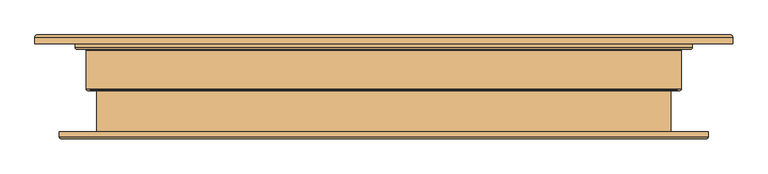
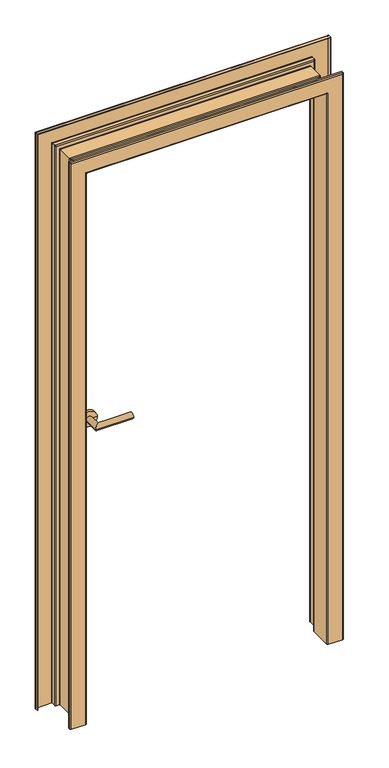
"""IFC4 building model written with IfcOpenShell, lengths in millimetres: door geometry."""

from ifc_helpers import new_model, si_unit, frame, origin, place, context, project, spatial, polyline, circle_curve, ellipse_curve, source, transform, mapped, element, save
from ifc_brep_helpers import plane_surface, cylinder_surface, revolved_surface, advanced_brep


def door_8842c076(model_context):
    return source(origin(), model_context, "Body", "AdvancedBrep", [
        advanced_brep(
        [(-500.8, 138.0, 0.0), (-447.2, 138.0, 0.0), (-444.0, 134.8, 0.0), (-444.0, 120.2, 0.0), (-442.8, 119.0, 0.0), (-431.2, 119.0, 0.0), (-428.0, 115.8, 0.0), (-428.0, 60.5435371, 0.0), (-427.230303, 59.5704182, 0.0), (-421.4901646, 59.1837299, 0.0), (-418.7138764, 60.5145653, 0.0), (-418.4, 61.2839869, 0.0), (-418.4, 67.990098, 0.0), (-417.5333333, 70.1996732, 0.0), (-413.8666667, 70.1996732, 0.0), (-413.0, 67.990098, 0.0), (-413.0, -8.8, 0.0), (-416.2, -12.0, 0.0), (-465.8, -12.0, 0.0), (-469.0, -8.8, 0.0), (-469.0, -2.0, 0.0), (-467.0, -2.0, 0.0), (-467.0, -8.8, 0.0), (-465.8, -10.0, 0.0), (-416.2, -10.0, 0.0), (-415.0, -8.8, 0.0), (-415.0, 67.990098, 0.0), (-415.3333333, 68.8399346, 0.0), (-416.0666667, 68.8399346, 0.0), (-416.4, 67.990098, 0.0), (-416.4, 61.2435371, 0.0), (-417.2315687, 59.170398, 0.0), (-421.2947548, 57.1932991, 0.0), (-427.6909091, 57.6241802, 0.0), (-430.0, 60.5435371, 0.0), (-430.0, 115.8, 0.0), (-431.2, 117.0, 0.0), (-442.8, 117.0, 0.0), (-446.0, 120.2, 0.0), (-446.0, 134.8, 0.0), (-447.2, 136.0, 0.0), (-500.8, 136.0, 0.0), (-502.0, 134.8, 0.0), (-502.0, 125.0, 0.0), (-504.0, 125.0, 0.0), (-504.0, 134.8, 0.0), (-500.8, 138.0, 2087.8), (500.8, 138.0, 2087.8), (500.8, 138.0, 0.0), (447.2, 138.0, 0.0), (447.2, 138.0, 2034.2), (-447.2, 138.0, 2034.2), (-444.0, 134.8, 2031.0), (-444.0, 120.2, 2031.0), (-442.8, 119.0, 2029.8), (442.8, 119.0, 2029.8), (442.8, 119.0, 0.0), (431.2, 119.0, 0.0), (431.2, 119.0, 2018.2), (-431.2, 119.0, 2018.2), (-428.0, 115.8, 2015.0), (-428.0, 60.5435371, 2015.0), (-427.230303, 59.5704182, 2014.230303), (-421.4901646, 59.1837299, 2008.4901646), (-418.7138764, 60.5145653, 2005.7138764), (-418.4, 61.2839869, 2005.4), (-418.4, 67.990098, 2005.4), (-417.5333333, 70.1996732, 2004.5333333), (-413.8666667, 70.1996732, 2000.8666667), (-413.0, 67.990098, 2000.0), (-413.0, -8.8, 2000.0), (-416.2, -12.0, 2003.2), (416.2, -12.0, 2003.2), (416.2, -12.0, 0.0), (465.8, -12.0, 0.0), (465.8, -12.0, 2052.8), (-465.8, -12.0, 2052.8), (-469.0, -8.8, 2056.0), (-469.0, -2.0, 2056.0), (469.0, -2.0, 2056.0), (469.0, -2.0, 0.0), (467.0, -2.0, 0.0), (467.0, -2.0, 2054.0), (-467.0, -2.0, 2054.0), (-467.0, -8.8, 2054.0), (-465.8, -10.0, 2052.8), (465.8, -10.0, 2052.8), (465.8, -10.0, 0.0), (416.2, -10.0, 0.0), (416.2, -10.0, 2003.2), (-416.2, -10.0, 2003.2), (-415.0, -8.8, 2002.0), (-415.0, 67.990098, 2002.0), (-415.3333333, 68.8399346, 2002.3333333), (-416.0666667, 68.8399346, 2003.0666667), (-416.4, 67.990098, 2003.4), (-416.4, 61.2435371, 2003.4), (-417.2315687, 59.170398, 2004.2315687), (-421.2947548, 57.1932991, 2008.2947548), (-427.6909091, 57.6241802, 2014.6909091), (-430.0, 60.5435371, 2017.0), (-430.0, 115.8, 2017.0), (-431.2, 117.0, 2018.2), (431.2, 117.0, 2018.2), (431.2, 117.0, 0.0), (442.8, 117.0, 0.0), (442.8, 117.0, 2029.8), (-442.8, 117.0, 2029.8), (-446.0, 120.2, 2033.0), (-446.0, 134.8, 2033.0), (-447.2, 136.0, 2034.2), (447.2, 136.0, 2034.2), (447.2, 136.0, 0.0), (500.8, 136.0, 0.0), (500.8, 136.0, 2087.8), (-500.8, 136.0, 2087.8), (-502.0, 134.8, 2089.0), (-502.0, 125.0, 2089.0), (502.0, 125.0, 2089.0), (502.0, 125.0, 0.0), (504.0, 125.0, 0.0), (504.0, 125.0, 2091.0), (-504.0, 125.0, 2091.0), (-504.0, 134.8, 2091.0), (502.0, 134.8, 2089.0), (502.0, 134.8, 0.0), (504.0, 134.8, 0.0), (446.0, 134.8, 0.0), (446.0, 120.2, 0.0), (430.0, 115.8, 0.0), (430.0, 60.5435371, 0.0), (427.6909091, 57.6241802, 0.0), (421.2947548, 57.1932991, 0.0), (417.2315687, 59.170398, 0.0), (416.4, 61.2435371, 0.0), (416.4, 67.990098, 0.0), (416.0666667, 68.8399346, 0.0), (415.3333333, 68.8399346, 0.0), (415.0, 67.990098, 0.0), (415.0, -8.8, 0.0), (467.0, -8.8, 0.0), (469.0, -8.8, 0.0), (413.0, -8.8, 0.0), (413.0, 67.990098, 0.0), (413.8666667, 70.1996732, 0.0), (417.5333333, 70.1996732, 0.0), (418.4, 67.990098, 0.0), (418.4, 61.2839869, 0.0), (418.7138764, 60.5145653, 0.0), (421.4901646, 59.1837299, 0.0), (427.230303, 59.5704182, 0.0), (428.0, 60.5435371, 0.0), (428.0, 115.8, 0.0), (444.0, 120.2, 0.0), (444.0, 134.8, 0.0), (504.0, 134.8, 2091.0), (446.0, 134.8, 2033.0), (430.0, 115.8, 2017.0), (446.0, 120.2, 2033.0), (467.0, -8.8, 2054.0), (415.0, -8.8, 2002.0), (469.0, -8.8, 2056.0), (413.0, -8.8, 2000.0), (444.0, 120.2, 2031.0), (428.0, 115.8, 2015.0), (444.0, 134.8, 2031.0), (430.0, 60.5435371, 2017.0), (427.6909091, 57.6241802, 2014.6909091), (421.2947548, 57.1932991, 2008.2947548), (417.2315687, 59.170398, 2004.2315687), (416.4, 61.2435371, 2003.4), (416.4, 67.990098, 2003.4), (416.0666667, 68.8399346, 2003.0666667), (415.3333333, 68.8399346, 2002.3333333), (415.0, 67.990098, 2002.0), (413.0, 67.990098, 2000.0), (413.8666667, 70.1996732, 2000.8666667), (417.5333333, 70.1996732, 2004.5333333), (418.4, 67.990098, 2005.4), (418.4, 61.2839869, 2005.4), (418.7138764, 60.5145653, 2005.7138764), (421.4901646, 59.1837299, 2008.4901646), (427.230303, 59.5704182, 2014.230303), (428.0, 60.5435371, 2015.0)],
        [
            (0, 1),
            (1, 2, circle_curve(frame((-447.2, 134.8, 0.0), z_axis=(0.0, 0.0, -1.0), x_axis=(1.0, 0.0, 0.0)), 3.2)),
            (2, 3),
            (3, 4, circle_curve(frame((-442.8, 120.2, 0.0), z_axis=(0.0, 0.0, 1.0), x_axis=(1.0, 0.0, 0.0)), 1.2)),
            (4, 5),
            (5, 6, circle_curve(frame((-431.2, 115.8, 0.0), z_axis=(0.0, 0.0, -1.0), x_axis=(1.0, 0.0, 0.0)), 3.2)),
            (6, 7),
            (7, 8, circle_curve(frame((-427.0, 60.5435371, 0.0), z_axis=(0.0, 0.0, 1.0), x_axis=(1.0, 0.0, 0.0)), 1.0)),
            (8, 9, circle_curve(frame((-423.2, 76.6, 0.0), z_axis=(0.0, 0.0, 1.0), x_axis=(-1.0, 0.0, 0.0)), 17.5)),
            (9, 10, circle_curve(frame((-421.9298365, 63.6621994, 0.0), z_axis=(0.0, 0.0, 1.0), x_axis=(-1.0, 0.0, 0.0)), 4.5)),
            (10, 11, circle_curve(frame((-419.5, 61.2839869, 0.0), z_axis=(0.0, 0.0, 1.0), x_axis=(-1.0, 0.0, 0.0)), 1.1)),
            (11, 12),
            (12, 13, circle_curve(frame((-415.15, 67.990098, 0.0), z_axis=(0.0, 0.0, -1.0), x_axis=(1.0, 0.0, 0.0)), 3.25)),
            (13, 14, circle_curve(frame((-415.7, 68.5, 0.0), z_axis=(0.0, 0.0, -1.0), x_axis=(1.0, 0.0, 0.0)), 2.5)),
            (14, 15, circle_curve(frame((-416.25, 67.990098, 0.0), z_axis=(0.0, 0.0, -1.0), x_axis=(1.0, 0.0, 0.0)), 3.25)),
            (15, 16),
            (16, 17, circle_curve(frame((-416.2, -8.8, 0.0), z_axis=(0.0, 0.0, -1.0), x_axis=(1.0, 0.0, 0.0)), 3.2)),
            (17, 18),
            (18, 19, circle_curve(frame((-465.8, -8.8, 0.0), z_axis=(0.0, 0.0, -1.0), x_axis=(1.0, 0.0, 0.0)), 3.2)),
            (19, 20),
            (20, 21),
            (21, 22),
            (22, 23, circle_curve(frame((-465.8, -8.8, 0.0), z_axis=(0.0, 0.0, 1.0), x_axis=(1.0, 0.0, 0.0)), 1.2)),
            (23, 24),
            (24, 25, circle_curve(frame((-416.2, -8.8, 0.0), z_axis=(0.0, 0.0, 1.0), x_axis=(1.0, 0.0, 0.0)), 1.2)),
            (25, 26),
            (26, 27, circle_curve(frame((-416.25, 67.990098, 0.0), z_axis=(0.0, 0.0, 1.0), x_axis=(1.0, 0.0, 0.0)), 1.25)),
            (27, 28, circle_curve(frame((-415.7, 68.5, 0.0), z_axis=(0.0, 0.0, 1.0), x_axis=(1.0, 0.0, 0.0)), 0.5)),
            (28, 29, circle_curve(frame((-415.15, 67.990098, 0.0), z_axis=(0.0, 0.0, 1.0), x_axis=(1.0, 0.0, 0.0)), 1.25)),
            (29, 30),
            (30, 31, circle_curve(frame((-419.4, 61.2435371, 0.0), z_axis=(0.0, 0.0, -1.0), x_axis=(1.0, 0.0, 0.0)), 3.0)),
            (31, 32, circle_curve(frame((-421.9298365, 63.6621994, 0.0), z_axis=(0.0, 0.0, -1.0), x_axis=(1.0, 0.0, 0.0)), 6.5)),
            (32, 33, circle_curve(frame((-423.2, 76.6, 0.0), z_axis=(0.0, 0.0, -1.0), x_axis=(1.0, 0.0, 0.0)), 19.5)),
            (33, 34, circle_curve(frame((-427.0, 60.5435371, 0.0), z_axis=(0.0, 0.0, -1.0), x_axis=(1.0, 0.0, 0.0)), 3.0)),
            (34, 35),
            (35, 36, circle_curve(frame((-431.2, 115.8, 0.0), z_axis=(0.0, 0.0, 1.0), x_axis=(1.0, 0.0, 0.0)), 1.2)),
            (36, 37),
            (37, 38, circle_curve(frame((-442.8, 120.2, 0.0), z_axis=(0.0, 0.0, -1.0), x_axis=(1.0, 0.0, 0.0)), 3.2)),
            (38, 39),
            (39, 40, circle_curve(frame((-447.2, 134.8, 0.0), z_axis=(0.0, 0.0, 1.0), x_axis=(1.0, 0.0, 0.0)), 1.2)),
            (40, 41),
            (41, 42, circle_curve(frame((-500.8, 134.8, 0.0), z_axis=(0.0, 0.0, 1.0), x_axis=(1.0, 0.0, 0.0)), 1.2)),
            (42, 43),
            (43, 44),
            (44, 45),
            (45, 0, circle_curve(frame((-500.8, 134.8, 0.0), z_axis=(0.0, 0.0, -1.0), x_axis=(1.0, 0.0, 0.0)), 3.2)),
            (0, 46),
            (46, 47),
            (47, 48),
            (48, 49),
            (49, 50),
            (50, 51),
            (51, 1),
            (51, 52, ellipse_curve(frame((-447.2, 134.8, 2034.2), z_axis=(-0.7071067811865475, 0.0, -0.7071067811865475), x_axis=(0.7071067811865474, 0.0, -0.7071067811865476)), 4.5254834, 3.2)),
            (52, 2),
            (52, 53),
            (53, 3),
            (53, 54, ellipse_curve(frame((-442.8, 120.2, 2029.8), z_axis=(0.7071067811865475, 0.0, 0.7071067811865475), x_axis=(-0.7071067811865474, 0.0, 0.7071067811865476)), 1.6970563, 1.2)),
            (54, 4),
            (54, 55),
            (55, 56),
            (56, 57),
            (57, 58),
            (58, 59),
            (59, 5),
            (59, 60, ellipse_curve(frame((-431.2, 115.8, 2018.2), z_axis=(-0.7071067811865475, 0.0, -0.7071067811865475), x_axis=(0.7071067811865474, 0.0, -0.7071067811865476)), 4.5254834, 3.2)),
            (60, 6),
            (60, 61),
            (61, 7),
            (61, 62, ellipse_curve(frame((-427.0, 60.5435371, 2014.0), z_axis=(0.7071067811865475, 0.0, 0.7071067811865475), x_axis=(-0.7071067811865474, 0.0, 0.7071067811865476)), 1.4142136, 1.0)),
            (62, 8),
            (62, 63, ellipse_curve(frame((-423.2, 76.6, 2010.2), z_axis=(0.7071067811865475, 0.0, 0.7071067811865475), x_axis=(-0.7071067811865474, 0.0, 0.7071067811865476)), 24.7487373, 17.5)),
            (63, 9),
            (63, 64, ellipse_curve(frame((-421.9298365, 63.6621994, 2008.9298365), z_axis=(0.7071067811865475, 0.0, 0.7071067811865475), x_axis=(-0.7071067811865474, 0.0, 0.7071067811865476)), 6.363961, 4.5)),
            (64, 10),
            (64, 65, ellipse_curve(frame((-419.5, 61.2839869, 2006.5), z_axis=(0.7071067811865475, 0.0, 0.7071067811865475), x_axis=(-0.7071067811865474, 0.0, 0.7071067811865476)), 1.5556349, 1.1)),
            (65, 11),
            (65, 66),
            (66, 12),
            (66, 67, ellipse_curve(frame((-415.15, 67.990098, 2002.15), z_axis=(-0.7071067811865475, 0.0, -0.7071067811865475), x_axis=(0.7071067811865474, 0.0, -0.7071067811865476)), 4.5961941, 3.25)),
            (67, 13),
            (67, 68, ellipse_curve(frame((-415.7, 68.5, 2002.7), z_axis=(-0.7071067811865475, 0.0, -0.7071067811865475), x_axis=(0.7071067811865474, 0.0, -0.7071067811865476)), 3.5355339, 2.5)),
            (68, 14),
            (68, 69, ellipse_curve(frame((-416.25, 67.990098, 2003.25), z_axis=(-0.7071067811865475, 0.0, -0.7071067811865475), x_axis=(0.7071067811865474, 0.0, -0.7071067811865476)), 4.5961941, 3.25)),
            (69, 15),
            (69, 70),
            (70, 16),
            (70, 71, ellipse_curve(frame((-416.2, -8.8, 2003.2), z_axis=(-0.7071067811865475, 0.0, -0.7071067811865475), x_axis=(0.7071067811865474, 0.0, -0.7071067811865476)), 4.5254834, 3.2)),
            (71, 17),
            (71, 72),
            (72, 73),
            (73, 74),
            (74, 75),
            (75, 76),
            (76, 18),
            (76, 77, ellipse_curve(frame((-465.8, -8.8, 2052.8), z_axis=(-0.7071067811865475, 0.0, -0.7071067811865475), x_axis=(0.7071067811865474, 0.0, -0.7071067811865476)), 4.5254834, 3.2)),
            (77, 19),
            (77, 78),
            (78, 20),
            (78, 79),
            (79, 80),
            (80, 81),
            (81, 82),
            (82, 83),
            (83, 21),
            (83, 84),
            (84, 22),
            (84, 85, ellipse_curve(frame((-465.8, -8.8, 2052.8), z_axis=(0.7071067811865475, 0.0, 0.7071067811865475), x_axis=(-0.7071067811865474, 0.0, 0.7071067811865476)), 1.6970563, 1.2)),
            (85, 23),
            (85, 86),
            (86, 87),
            (87, 88),
            (88, 89),
            (89, 90),
            (90, 24),
            (90, 91, ellipse_curve(frame((-416.2, -8.8, 2003.2), z_axis=(0.7071067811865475, 0.0, 0.7071067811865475), x_axis=(-0.7071067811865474, 0.0, 0.7071067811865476)), 1.6970563, 1.2)),
            (91, 25),
            (91, 92),
            (92, 26),
            (92, 93, ellipse_curve(frame((-416.25, 67.990098, 2003.25), z_axis=(0.7071067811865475, 0.0, 0.7071067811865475), x_axis=(-0.7071067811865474, 0.0, 0.7071067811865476)), 1.767767, 1.25)),
            (93, 27),
            (93, 94, ellipse_curve(frame((-415.7, 68.5, 2002.7), z_axis=(0.7071067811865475, 0.0, 0.7071067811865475), x_axis=(-0.7071067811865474, 0.0, 0.7071067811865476)), 0.7071068, 0.5)),
            (94, 28),
            (94, 95, ellipse_curve(frame((-415.15, 67.990098, 2002.15), z_axis=(0.7071067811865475, 0.0, 0.7071067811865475), x_axis=(-0.7071067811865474, 0.0, 0.7071067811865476)), 1.767767, 1.25)),
            (95, 29),
            (95, 96),
            (96, 30),
            (96, 97, ellipse_curve(frame((-419.4, 61.2435371, 2006.4), z_axis=(-0.7071067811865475, 0.0, -0.7071067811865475), x_axis=(0.7071067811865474, 0.0, -0.7071067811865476)), 4.2426407, 3.0)),
            (97, 31),
            (97, 98, ellipse_curve(frame((-421.9298365, 63.6621994, 2008.9298365), z_axis=(-0.7071067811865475, 0.0, -0.7071067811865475), x_axis=(0.7071067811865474, 0.0, -0.7071067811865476)), 9.1923882, 6.5)),
            (98, 32),
            (98, 99, ellipse_curve(frame((-423.2, 76.6, 2010.2), z_axis=(-0.7071067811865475, 0.0, -0.7071067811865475), x_axis=(0.7071067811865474, 0.0, -0.7071067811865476)), 27.5771645, 19.5)),
            (99, 33),
            (99, 100, ellipse_curve(frame((-427.0, 60.5435371, 2014.0), z_axis=(-0.7071067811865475, 0.0, -0.7071067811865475), x_axis=(0.7071067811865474, 0.0, -0.7071067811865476)), 4.2426407, 3.0)),
            (100, 34),
            (100, 101),
            (101, 35),
            (101, 102, ellipse_curve(frame((-431.2, 115.8, 2018.2), z_axis=(0.7071067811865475, 0.0, 0.7071067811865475), x_axis=(-0.7071067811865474, 0.0, 0.7071067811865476)), 1.6970563, 1.2)),
            (102, 36),
            (102, 103),
            (103, 104),
            (104, 105),
            (105, 106),
            (106, 107),
            (107, 37),
            (107, 108, ellipse_curve(frame((-442.8, 120.2, 2029.8), z_axis=(-0.7071067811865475, 0.0, -0.7071067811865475), x_axis=(0.7071067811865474, 0.0, -0.7071067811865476)), 4.5254834, 3.2)),
            (108, 38),
            (108, 109),
            (109, 39),
            (109, 110, ellipse_curve(frame((-447.2, 134.8, 2034.2), z_axis=(0.7071067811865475, 0.0, 0.7071067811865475), x_axis=(-0.7071067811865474, 0.0, 0.7071067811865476)), 1.6970563, 1.2)),
            (110, 40),
            (110, 111),
            (111, 112),
            (112, 113),
            (113, 114),
            (114, 115),
            (115, 41),
            (115, 116, ellipse_curve(frame((-500.8, 134.8, 2087.8), z_axis=(0.7071067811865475, 0.0, 0.7071067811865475), x_axis=(-0.7071067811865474, 0.0, 0.7071067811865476)), 1.6970563, 1.2)),
            (116, 42),
            (116, 117),
            (117, 43),
            (117, 118),
            (118, 119),
            (119, 120),
            (120, 121),
            (121, 122),
            (122, 44),
            (122, 123),
            (123, 45),
            (123, 46, ellipse_curve(frame((-500.8, 134.8, 2087.8), z_axis=(-0.7071067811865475, 0.0, -0.7071067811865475), x_axis=(0.7071067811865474, 0.0, -0.7071067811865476)), 4.5254834, 3.2)),
            (118, 124),
            (124, 125),
            (125, 119),
            (48, 126, circle_curve(frame((500.8, 134.8, 0.0), z_axis=(0.0, 0.0, -1.0), x_axis=(-1.0, 0.0, 0.0)), 3.2)),
            (126, 120),
            (125, 113, circle_curve(frame((500.8, 134.8, 0.0), z_axis=(0.0, 0.0, 1.0), x_axis=(-1.0, 0.0, 0.0)), 1.2)),
            (112, 127, circle_curve(frame((447.2, 134.8, 0.0), z_axis=(0.0, 0.0, 1.0), x_axis=(-1.0, 0.0, 0.0)), 1.2)),
            (127, 128),
            (128, 105, circle_curve(frame((442.8, 120.2, 0.0), z_axis=(0.0, 0.0, -1.0), x_axis=(-1.0, 0.0, 0.0)), 3.2)),
            (104, 129, circle_curve(frame((431.2, 115.8, 0.0), z_axis=(0.0, 0.0, 1.0), x_axis=(-1.0, 0.0, 0.0)), 1.2)),
            (129, 130),
            (130, 131, circle_curve(frame((427.0, 60.5435371, 0.0), z_axis=(0.0, 0.0, -1.0), x_axis=(-1.0, 0.0, 0.0)), 3.0)),
            (131, 132, circle_curve(frame((423.2, 76.6, 0.0), z_axis=(0.0, 0.0, -1.0), x_axis=(-1.0, 0.0, 0.0)), 19.5)),
            (132, 133, circle_curve(frame((421.9298365, 63.6621994, 0.0), z_axis=(0.0, 0.0, -1.0), x_axis=(-1.0, 0.0, 0.0)), 6.5)),
            (133, 134, circle_curve(frame((419.4, 61.2435371, 0.0), z_axis=(0.0, 0.0, -1.0), x_axis=(-1.0, 0.0, 0.0)), 3.0)),
            (134, 135),
            (135, 136, circle_curve(frame((415.15, 67.990098, 0.0), z_axis=(0.0, 0.0, 1.0), x_axis=(-1.0, 0.0, 0.0)), 1.25)),
            (136, 137, circle_curve(frame((415.7, 68.5, 0.0), z_axis=(0.0, 0.0, 1.0), x_axis=(-1.0, 0.0, 0.0)), 0.5)),
            (137, 138, circle_curve(frame((416.25, 67.990098, 0.0), z_axis=(0.0, 0.0, 1.0), x_axis=(-1.0, 0.0, 0.0)), 1.25)),
            (138, 139),
            (139, 88, circle_curve(frame((416.2, -8.8, 0.0), z_axis=(0.0, 0.0, 1.0), x_axis=(-1.0, 0.0, 0.0)), 1.2)),
            (87, 140, circle_curve(frame((465.8, -8.8, 0.0), z_axis=(0.0, 0.0, 1.0), x_axis=(-1.0, 0.0, 0.0)), 1.2)),
            (140, 81),
            (80, 141),
            (141, 74, circle_curve(frame((465.8, -8.8, 0.0), z_axis=(0.0, 0.0, -1.0), x_axis=(-1.0, 0.0, 0.0)), 3.2)),
            (73, 142, circle_curve(frame((416.2, -8.8, 0.0), z_axis=(0.0, 0.0, -1.0), x_axis=(-1.0, 0.0, 0.0)), 3.2)),
            (142, 143),
            (143, 144, circle_curve(frame((416.25, 67.990098, 0.0), z_axis=(0.0, 0.0, -1.0), x_axis=(-1.0, 0.0, 0.0)), 3.25)),
            (144, 145, circle_curve(frame((415.7, 68.5, 0.0), z_axis=(0.0, 0.0, -1.0), x_axis=(-1.0, 0.0, 0.0)), 2.5)),
            (145, 146, circle_curve(frame((415.15, 67.990098, 0.0), z_axis=(0.0, 0.0, -1.0), x_axis=(-1.0, 0.0, 0.0)), 3.25)),
            (146, 147),
            (147, 148, circle_curve(frame((419.5, 61.2839869, 0.0), z_axis=(0.0, 0.0, 1.0), x_axis=(1.0, 0.0, 0.0)), 1.1)),
            (148, 149, circle_curve(frame((421.9298365, 63.6621994, 0.0), z_axis=(0.0, 0.0, 1.0), x_axis=(1.0, 0.0, 0.0)), 4.5)),
            (149, 150, circle_curve(frame((423.2, 76.6, 0.0), z_axis=(0.0, 0.0, 1.0), x_axis=(1.0, 0.0, 0.0)), 17.5)),
            (150, 151, circle_curve(frame((427.0, 60.5435371, 0.0), z_axis=(0.0, 0.0, 1.0), x_axis=(-1.0, 0.0, 0.0)), 1.0)),
            (151, 152),
            (152, 57, circle_curve(frame((431.2, 115.8, 0.0), z_axis=(0.0, 0.0, -1.0), x_axis=(-1.0, 0.0, 0.0)), 3.2)),
            (56, 153, circle_curve(frame((442.8, 120.2, 0.0), z_axis=(0.0, 0.0, 1.0), x_axis=(-1.0, 0.0, 0.0)), 1.2)),
            (153, 154),
            (154, 49, circle_curve(frame((447.2, 134.8, 0.0), z_axis=(0.0, 0.0, -1.0), x_axis=(-1.0, 0.0, 0.0)), 3.2)),
            (155, 121),
            (126, 155),
            (111, 156, ellipse_curve(frame((447.2, 134.8, 2034.2), z_axis=(-0.7071067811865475, 0.0, 0.7071067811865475), x_axis=(-0.7071067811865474, 0.0, -0.7071067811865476)), 1.6970563, 1.2)),
            (156, 127),
            (124, 114, ellipse_curve(frame((500.8, 134.8, 2087.8), z_axis=(-0.7071067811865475, 0.0, 0.7071067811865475), x_axis=(-0.7071067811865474, 0.0, -0.7071067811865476)), 1.6970563, 1.2)),
            (103, 157, ellipse_curve(frame((431.2, 115.8, 2018.2), z_axis=(-0.7071067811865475, 0.0, 0.7071067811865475), x_axis=(-0.7071067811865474, 0.0, -0.7071067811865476)), 1.6970563, 1.2)),
            (157, 129),
            (158, 106, ellipse_curve(frame((442.8, 120.2, 2029.8), z_axis=(0.7071067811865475, 0.0, -0.7071067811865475), x_axis=(0.7071067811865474, 0.0, 0.7071067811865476)), 4.5254834, 3.2)),
            (128, 158),
            (86, 159, ellipse_curve(frame((465.8, -8.8, 2052.8), z_axis=(-0.7071067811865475, 0.0, 0.7071067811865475), x_axis=(-0.7071067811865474, 0.0, -0.7071067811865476)), 1.6970563, 1.2)),
            (159, 140),
            (160, 89, ellipse_curve(frame((416.2, -8.8, 2003.2), z_axis=(-0.7071067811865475, 0.0, 0.7071067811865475), x_axis=(-0.7071067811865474, 0.0, -0.7071067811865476)), 1.6970563, 1.2)),
            (139, 160),
            (79, 161),
            (161, 141),
            (159, 82),
            (72, 162, ellipse_curve(frame((416.2, -8.8, 2003.2), z_axis=(0.7071067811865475, 0.0, -0.7071067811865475), x_axis=(0.7071067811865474, 0.0, 0.7071067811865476)), 4.5254834, 3.2)),
            (162, 142),
            (161, 75, ellipse_curve(frame((465.8, -8.8, 2052.8), z_axis=(0.7071067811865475, 0.0, -0.7071067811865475), x_axis=(0.7071067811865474, 0.0, 0.7071067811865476)), 4.5254834, 3.2)),
            (55, 163, ellipse_curve(frame((442.8, 120.2, 2029.8), z_axis=(-0.7071067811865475, 0.0, 0.7071067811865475), x_axis=(-0.7071067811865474, 0.0, -0.7071067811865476)), 1.6970563, 1.2)),
            (163, 153),
            (164, 58, ellipse_curve(frame((431.2, 115.8, 2018.2), z_axis=(0.7071067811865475, 0.0, -0.7071067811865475), x_axis=(0.7071067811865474, 0.0, 0.7071067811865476)), 4.5254834, 3.2)),
            (152, 164),
            (47, 155, ellipse_curve(frame((500.8, 134.8, 2087.8), z_axis=(0.7071067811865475, 0.0, -0.7071067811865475), x_axis=(0.7071067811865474, 0.0, 0.7071067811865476)), 4.5254834, 3.2)),
            (165, 50, ellipse_curve(frame((447.2, 134.8, 2034.2), z_axis=(0.7071067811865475, 0.0, -0.7071067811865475), x_axis=(0.7071067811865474, 0.0, 0.7071067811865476)), 4.5254834, 3.2)),
            (154, 165),
            (156, 158),
            (157, 166),
            (166, 130),
            (166, 167, ellipse_curve(frame((427.0, 60.5435371, 2014.0), z_axis=(0.7071067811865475, 0.0, -0.7071067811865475), x_axis=(0.7071067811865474, 0.0, 0.7071067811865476)), 4.2426407, 3.0)),
            (167, 131),
            (167, 168, ellipse_curve(frame((423.2, 76.6, 2010.2), z_axis=(0.7071067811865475, 0.0, -0.7071067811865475), x_axis=(0.7071067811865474, 0.0, 0.7071067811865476)), 27.5771645, 19.5)),
            (168, 132),
            (168, 169, ellipse_curve(frame((421.9298365, 63.6621994, 2008.9298365), z_axis=(0.7071067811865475, 0.0, -0.7071067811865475), x_axis=(0.7071067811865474, 0.0, 0.7071067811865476)), 9.1923882, 6.5)),
            (169, 133),
            (169, 170, ellipse_curve(frame((419.4, 61.2435371, 2006.4), z_axis=(0.7071067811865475, 0.0, -0.7071067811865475), x_axis=(0.7071067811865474, 0.0, 0.7071067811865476)), 4.2426407, 3.0)),
            (170, 134),
            (170, 171),
            (171, 135),
            (171, 172, ellipse_curve(frame((415.15, 67.990098, 2002.15), z_axis=(-0.7071067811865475, 0.0, 0.7071067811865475), x_axis=(-0.7071067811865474, 0.0, -0.7071067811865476)), 1.767767, 1.25)),
            (172, 136),
            (172, 173, ellipse_curve(frame((415.7, 68.5, 2002.7), z_axis=(-0.7071067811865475, 0.0, 0.7071067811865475), x_axis=(-0.7071067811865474, 0.0, -0.7071067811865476)), 0.7071068, 0.5)),
            (173, 137),
            (173, 174, ellipse_curve(frame((416.25, 67.990098, 2003.25), z_axis=(-0.7071067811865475, 0.0, 0.7071067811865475), x_axis=(-0.7071067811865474, 0.0, -0.7071067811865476)), 1.767767, 1.25)),
            (174, 138),
            (174, 160),
            (162, 175),
            (175, 143),
            (175, 176, ellipse_curve(frame((416.25, 67.990098, 2003.25), z_axis=(0.7071067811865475, 0.0, -0.7071067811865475), x_axis=(0.7071067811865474, 0.0, 0.7071067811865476)), 4.5961941, 3.25)),
            (176, 144),
            (176, 177, ellipse_curve(frame((415.7, 68.5, 2002.7), z_axis=(0.7071067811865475, 0.0, -0.7071067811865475), x_axis=(0.7071067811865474, 0.0, 0.7071067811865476)), 3.5355339, 2.5)),
            (177, 145),
            (177, 178, ellipse_curve(frame((415.15, 67.990098, 2002.15), z_axis=(0.7071067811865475, 0.0, -0.7071067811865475), x_axis=(0.7071067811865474, 0.0, 0.7071067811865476)), 4.5961941, 3.25)),
            (178, 146),
            (178, 179),
            (179, 147),
            (179, 180, ellipse_curve(frame((419.5, 61.2839869, 2006.5), z_axis=(-0.7071067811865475, 0.0, 0.7071067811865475), x_axis=(-0.7071067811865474, 0.0, -0.7071067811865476)), 1.5556349, 1.1)),
            (180, 148),
            (180, 181, ellipse_curve(frame((421.9298365, 63.6621994, 2008.9298365), z_axis=(-0.7071067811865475, 0.0, 0.7071067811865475), x_axis=(-0.7071067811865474, 0.0, -0.7071067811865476)), 6.363961, 4.5)),
            (181, 149),
            (181, 182, ellipse_curve(frame((423.2, 76.6, 2010.2), z_axis=(-0.7071067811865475, 0.0, 0.7071067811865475), x_axis=(-0.7071067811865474, 0.0, -0.7071067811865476)), 24.7487373, 17.5)),
            (182, 150),
            (182, 183, ellipse_curve(frame((427.0, 60.5435371, 2014.0), z_axis=(-0.7071067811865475, 0.0, 0.7071067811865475), x_axis=(-0.7071067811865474, 0.0, -0.7071067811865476)), 1.4142136, 1.0)),
            (183, 151),
            (183, 164),
            (163, 165),
            (123, 155),
            (116, 124),
            (109, 156),
            (108, 158),
            (101, 157),
            (100, 166),
            (99, 167),
            (98, 168),
            (97, 169),
            (96, 170),
            (95, 171),
            (94, 172),
            (93, 173),
            (92, 174),
            (91, 160),
            (84, 159),
            (77, 161),
            (70, 162),
            (69, 175),
            (68, 176),
            (67, 177),
            (66, 178),
            (65, 179),
            (64, 180),
            (63, 181),
            (62, 182),
            (61, 183),
            (60, 164),
            (53, 163),
            (52, 165),
        ],
        [
            plane_surface(frame((-474.0, 125.0, 0.0), z_axis=(0.0, 0.0, -1.0), x_axis=(0.0, 1.0, 0.0))),
            plane_surface(frame((-500.8, 138.0, 0.0), z_axis=(0.0, 1.0, 0.0), x_axis=(0.0, 0.0, 1.0))),
            cylinder_surface(frame((-447.2, 134.8, 0.0), z_axis=(0.0, 0.0, -1.0), x_axis=(1.0, 0.0, 0.0)), 3.2),
            plane_surface(frame((-444.0, 134.8, 0.0), z_axis=(1.0, 0.0, 0.0), x_axis=(0.0, 0.0, 1.0))),
            revolved_surface(polyline([(-441.6, 120.2, 2031.0000000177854), (-441.6, 120.2, 0.0)]), (-442.8, 120.2, 0.0), (0.0, 0.0, 1.0)),
            plane_surface(frame((-442.8, 119.0, 0.0), z_axis=(0.0, 1.0, 0.0), x_axis=(0.0, 0.0, 1.0))),
            cylinder_surface(frame((-431.2, 115.8, 0.0), z_axis=(0.0, 0.0, -1.0), x_axis=(1.0, 0.0, 0.0)), 3.2),
            plane_surface(frame((-428.0, 115.8, 0.0), z_axis=(1.0, 0.0, 0.0), x_axis=(0.0, 0.0, 1.0))),
            revolved_surface(polyline([(-426.0, 60.5435371, 2015.0000000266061), (-426.0, 60.5435371, 0.0)]), (-427.0, 60.5435371, 0.0), (0.0, 0.0, 1.0)),
            revolved_surface(polyline([(-440.7, 76.6, 2027.6999999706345), (-440.7, 76.6, 0.0)]), (-423.2, 76.6, 0.0), (0.0, 0.0, 1.0)),
            revolved_surface(polyline([(-426.4298365, 63.6621994, 2013.4298364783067), (-426.4298365, 63.6621994, 0.0)]), (-421.9298365, 63.6621994, 0.0), (0.0, 0.0, 1.0)),
            revolved_surface(polyline([(-420.6, 61.2839869, 2007.5999999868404), (-420.6, 61.2839869, 0.0)]), (-419.5, 61.2839869, 0.0), (0.0, 0.0, 1.0)),
            plane_surface(frame((-418.4, 61.2839869, 0.0), z_axis=(-1.0, 0.0, 0.0), x_axis=(0.0, 0.0, 1.0))),
            cylinder_surface(frame((-415.15, 67.990098, 0.0), z_axis=(0.0, 0.0, -1.0), x_axis=(1.0, 0.0, 0.0)), 3.25),
            cylinder_surface(frame((-415.7, 68.5, 0.0), z_axis=(0.0, 0.0, -1.0), x_axis=(1.0, 0.0, 0.0)), 2.5),
            cylinder_surface(frame((-416.25, 67.990098, 0.0), z_axis=(0.0, 0.0, -1.0), x_axis=(1.0, 0.0, 0.0)), 3.25),
            plane_surface(frame((-413.0, 67.990098, 0.0), z_axis=(1.0, 0.0, 0.0), x_axis=(0.0, 0.0, 1.0))),
            cylinder_surface(frame((-416.2, -8.8, 0.0), z_axis=(0.0, 0.0, -1.0), x_axis=(1.0, 0.0, 0.0)), 3.2),
            plane_surface(frame((-416.2, -12.0, 0.0), z_axis=(0.0, -1.0, 0.0), x_axis=(0.0, 0.0, 1.0))),
            cylinder_surface(frame((-465.8, -8.8, 0.0), z_axis=(0.0, 0.0, -1.0), x_axis=(1.0, 0.0, 0.0)), 3.2),
            plane_surface(frame((-469.0, -8.8, 0.0), z_axis=(-1.0, 0.0, 0.0), x_axis=(0.0, 0.0, 1.0))),
            plane_surface(frame((-469.0, -2.0, 0.0), z_axis=(0.0, 1.0, 0.0), x_axis=(0.0, 0.0, 1.0))),
            plane_surface(frame((-467.0, -2.0, 0.0), z_axis=(1.0, 0.0, 0.0), x_axis=(0.0, 0.0, 1.0))),
            revolved_surface(polyline([(-464.6, -8.8, 2054.0000000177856), (-464.6, -8.8, 0.0)]), (-465.8, -8.8, 0.0), (0.0, 0.0, 1.0)),
            plane_surface(frame((-465.8, -10.0, 0.0), z_axis=(0.0, 1.0, 0.0), x_axis=(0.0, 0.0, 1.0))),
            revolved_surface(polyline([(-415.0, -8.8, 2004.4000000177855), (-415.0, -8.8, 0.0)]), (-416.2, -8.8, 0.0), (0.0, 0.0, 1.0)),
            plane_surface(frame((-415.0, -8.8, 0.0), z_axis=(-1.0, 0.0, 0.0), x_axis=(0.0, 0.0, 1.0))),
            revolved_surface(polyline([(-415.0, 67.990098, 2004.5000000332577), (-415.0, 67.990098, 0.0)]), (-416.25, 67.990098, 0.0), (0.0, 0.0, 1.0)),
            revolved_surface(polyline([(-415.2, 68.5, 2003.2000000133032), (-415.2, 68.5, 0.0)]), (-415.7, 68.5, 0.0), (0.0, 0.0, 1.0)),
            revolved_surface(polyline([(-413.9, 67.990098, 2003.4000000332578), (-413.9, 67.990098, 0.0)]), (-415.15, 67.990098, 0.0), (0.0, 0.0, 1.0)),
            plane_surface(frame((-416.4, 67.990098, 0.0), z_axis=(1.0, 0.0, 0.0), x_axis=(0.0, 0.0, 1.0))),
            cylinder_surface(frame((-419.4, 61.2435371, 0.0), z_axis=(0.0, 0.0, -1.0), x_axis=(1.0, 0.0, 0.0)), 3.0),
            cylinder_surface(frame((-421.9298365, 63.6621994, 0.0), z_axis=(0.0, 0.0, -1.0), x_axis=(1.0, 0.0, 0.0)), 6.5),
            cylinder_surface(frame((-423.2, 76.6, 0.0), z_axis=(0.0, 0.0, -1.0), x_axis=(1.0, 0.0, 0.0)), 19.5),
            cylinder_surface(frame((-427.0, 60.5435371, 0.0), z_axis=(0.0, 0.0, -1.0), x_axis=(1.0, 0.0, 0.0)), 3.0),
            plane_surface(frame((-430.0, 60.5435371, 0.0), z_axis=(-1.0, 0.0, 0.0), x_axis=(0.0, 0.0, 1.0))),
            revolved_surface(polyline([(-430.0, 115.8, 2019.4000000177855), (-430.0, 115.8, 0.0)]), (-431.2, 115.8, 0.0), (0.0, 0.0, 1.0)),
            plane_surface(frame((-431.2, 117.0, 0.0), z_axis=(0.0, -1.0, 0.0), x_axis=(0.0, 0.0, 1.0))),
            cylinder_surface(frame((-442.8, 120.2, 0.0), z_axis=(0.0, 0.0, -1.0), x_axis=(1.0, 0.0, 0.0)), 3.2),
            plane_surface(frame((-446.0, 120.2, 0.0), z_axis=(-1.0, 0.0, 0.0), x_axis=(0.0, 0.0, 1.0))),
            revolved_surface(polyline([(-446.0, 134.8, 2035.4000000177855), (-446.0, 134.8, 0.0)]), (-447.2, 134.8, 0.0), (0.0, 0.0, 1.0)),
            plane_surface(frame((-447.2, 136.0, 0.0), z_axis=(0.0, -1.0, 0.0), x_axis=(0.0, 0.0, 1.0))),
            revolved_surface(polyline([(-499.6, 134.8, 2089.0000000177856), (-499.6, 134.8, 0.0)]), (-500.8, 134.8, 0.0), (0.0, 0.0, 1.0)),
            plane_surface(frame((-502.0, 134.8, 0.0), z_axis=(1.0, 0.0, 0.0), x_axis=(0.0, 0.0, 1.0))),
            plane_surface(frame((-502.0, 125.0, 0.0), z_axis=(0.0, -1.0, 0.0), x_axis=(0.0, 0.0, 1.0))),
            plane_surface(frame((-504.0, 125.0, 0.0), z_axis=(-1.0, 0.0, 0.0), x_axis=(0.0, 0.0, 1.0))),
            cylinder_surface(frame((-500.8, 134.8, 0.0), z_axis=(0.0, 0.0, -1.0), x_axis=(1.0, 0.0, 0.0)), 3.2),
            plane_surface(frame((502.0, 134.8, 2089.0), z_axis=(-1.0, 0.0, 0.0), x_axis=(0.0, 0.0, -1.0))),
            plane_surface(frame((474.0, 125.0, 0.0), z_axis=(0.0, 0.0, -1.0), x_axis=(0.0, 1.0, 0.0))),
            plane_surface(frame((504.0, 125.0, 2091.0), z_axis=(1.0, 0.0, 0.0), x_axis=(0.0, 0.0, -1.0))),
            revolved_surface(polyline([(446.0, 134.8, 0.0), (446.0, 134.8, 2035.4000000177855)]), (447.2, 134.8, 2061.0), (0.0, 0.0, -1.0)),
            revolved_surface(polyline([(499.6, 134.8, 0.0), (499.6, 134.8, 2089.0000000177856)]), (500.8, 134.8, 2061.0), (0.0, 0.0, -1.0)),
            revolved_surface(polyline([(430.0, 115.8, 0.0), (430.0, 115.8, 2019.4000000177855)]), (431.2, 115.8, 2061.0), (0.0, 0.0, -1.0)),
            cylinder_surface(frame((442.8, 120.2, 2061.0), z_axis=(0.0, 0.0, 1.0), x_axis=(-1.0, 0.0, 0.0)), 3.2),
            revolved_surface(polyline([(464.6, -8.8, 0.0), (464.6, -8.8, 2054.0000000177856)]), (465.8, -8.8, 2061.0), (0.0, 0.0, -1.0)),
            revolved_surface(polyline([(415.0, -8.8, 0.0), (415.0, -8.8, 2004.4000000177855)]), (416.2, -8.8, 2061.0), (0.0, 0.0, -1.0)),
            plane_surface(frame((469.0, -8.8, 2056.0), z_axis=(1.0, 0.0, 0.0), x_axis=(0.0, 0.0, -1.0))),
            plane_surface(frame((467.0, -2.0, 2054.0), z_axis=(-1.0, 0.0, 0.0), x_axis=(0.0, 0.0, -1.0))),
            cylinder_surface(frame((416.2, -8.8, 2061.0), z_axis=(0.0, 0.0, 1.0), x_axis=(-1.0, 0.0, 0.0)), 3.2),
            cylinder_surface(frame((465.8, -8.8, 2061.0), z_axis=(0.0, 0.0, 1.0), x_axis=(-1.0, 0.0, 0.0)), 3.2),
            revolved_surface(polyline([(441.6, 120.2, 0.0), (441.6, 120.2, 2031.0000000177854)]), (442.8, 120.2, 2061.0), (0.0, 0.0, -1.0)),
            cylinder_surface(frame((431.2, 115.8, 2061.0), z_axis=(0.0, 0.0, 1.0), x_axis=(-1.0, 0.0, 0.0)), 3.2),
            cylinder_surface(frame((500.8, 134.8, 2061.0), z_axis=(0.0, 0.0, 1.0), x_axis=(-1.0, 0.0, 0.0)), 3.2),
            cylinder_surface(frame((447.2, 134.8, 2061.0), z_axis=(0.0, 0.0, 1.0), x_axis=(-1.0, 0.0, 0.0)), 3.2),
            plane_surface(frame((446.0, 120.2, 2033.0), z_axis=(1.0, 0.0, 0.0), x_axis=(0.0, 0.0, -1.0))),
            plane_surface(frame((430.0, 60.5435371, 2017.0), z_axis=(1.0, 0.0, 0.0), x_axis=(0.0, 0.0, -1.0))),
            cylinder_surface(frame((427.0, 60.5435371, 2061.0), z_axis=(0.0, 0.0, 1.0), x_axis=(-1.0, 0.0, 0.0)), 3.0),
            cylinder_surface(frame((423.2, 76.6, 2061.0), z_axis=(0.0, 0.0, 1.0), x_axis=(-1.0, 0.0, 0.0)), 19.5),
            cylinder_surface(frame((421.9298365, 63.6621994, 2061.0), z_axis=(0.0, 0.0, 1.0), x_axis=(-1.0, 0.0, 0.0)), 6.5),
            cylinder_surface(frame((419.4, 61.2435371, 2061.0), z_axis=(0.0, 0.0, 1.0), x_axis=(-1.0, 0.0, 0.0)), 3.0),
            plane_surface(frame((416.4, 67.990098, 2003.4), z_axis=(-1.0, 0.0, 0.0), x_axis=(0.0, 0.0, -1.0))),
            revolved_surface(polyline([(413.9, 67.990098, 0.0), (413.9, 67.990098, 2003.4000000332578)]), (415.15, 67.990098, 2061.0), (0.0, 0.0, -1.0)),
            revolved_surface(polyline([(415.2, 68.5, 0.0), (415.2, 68.5, 2003.2000000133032)]), (415.7, 68.5, 2061.0), (0.0, 0.0, -1.0)),
            revolved_surface(polyline([(415.0, 67.990098, 0.0), (415.0, 67.990098, 2004.5000000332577)]), (416.25, 67.990098, 2061.0), (0.0, 0.0, -1.0)),
            plane_surface(frame((415.0, -8.8, 2002.0), z_axis=(1.0, 0.0, 0.0), x_axis=(0.0, 0.0, -1.0))),
            plane_surface(frame((413.0, 67.990098, 2000.0), z_axis=(-1.0, 0.0, 0.0), x_axis=(0.0, 0.0, -1.0))),
            cylinder_surface(frame((416.25, 67.990098, 2061.0), z_axis=(0.0, 0.0, 1.0), x_axis=(-1.0, 0.0, 0.0)), 3.25),
            cylinder_surface(frame((415.7, 68.5, 2061.0), z_axis=(0.0, 0.0, 1.0), x_axis=(-1.0, 0.0, 0.0)), 2.5),
            cylinder_surface(frame((415.15, 67.990098, 2061.0), z_axis=(0.0, 0.0, 1.0), x_axis=(-1.0, 0.0, 0.0)), 3.25),
            plane_surface(frame((418.4, 61.2839869, 2005.4), z_axis=(1.0, 0.0, 0.0), x_axis=(0.0, 0.0, -1.0))),
            revolved_surface(polyline([(420.6, 61.2839869, 0.0), (420.6, 61.2839869, 2007.5999999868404)]), (419.5, 61.2839869, 2061.0), (0.0, 0.0, -1.0)),
            revolved_surface(polyline([(426.4298365, 63.6621994, 0.0), (426.4298365, 63.6621994, 2013.4298364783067)]), (421.9298365, 63.6621994, 2061.0), (0.0, 0.0, -1.0)),
            revolved_surface(polyline([(440.7, 76.6, 0.0), (440.7, 76.6, 2027.6999999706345)]), (423.2, 76.6, 2061.0), (0.0, 0.0, -1.0)),
            revolved_surface(polyline([(426.0, 60.5435371, 0.0), (426.0, 60.5435371, 2015.0000000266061)]), (427.0, 60.5435371, 2061.0), (0.0, 0.0, -1.0)),
            plane_surface(frame((428.0, 115.8, 2015.0), z_axis=(-1.0, 0.0, 0.0), x_axis=(0.0, 0.0, -1.0))),
            plane_surface(frame((444.0, 134.8, 2031.0), z_axis=(-1.0, 0.0, 0.0), x_axis=(0.0, 0.0, -1.0))),
            cylinder_surface(frame((-474.0, 134.8, 2087.8), z_axis=(-1.0, 0.0, 0.0), x_axis=(0.0, 0.0, -1.0)), 3.2),
            plane_surface(frame((-504.0, 125.0, 2091.0), z_axis=(0.0, 0.0, 1.0), x_axis=(1.0, 0.0, 0.0))),
            plane_surface(frame((-502.0, 134.8, 2089.0), z_axis=(0.0, 0.0, -1.0), x_axis=(1.0, 0.0, 0.0))),
            revolved_surface(polyline([(502.0000000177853, 134.8, 2086.6000000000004), (-502.00000001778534, 134.8, 2086.6000000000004)]), (-474.0, 134.8, 2087.8), (1.0, 0.0, 0.0)),
            revolved_surface(polyline([(448.4000000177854, 134.8, 2033.0), (-448.4000000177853, 134.8, 2033.0)]), (-474.0, 134.8, 2034.2), (1.0, 0.0, 0.0)),
            plane_surface(frame((-446.0, 120.2, 2033.0), z_axis=(0.0, 0.0, 1.0), x_axis=(1.0, 0.0, 0.0))),
            cylinder_surface(frame((-474.0, 120.2, 2029.8), z_axis=(-1.0, 0.0, 0.0), x_axis=(0.0, 0.0, -1.0)), 3.2),
            revolved_surface(polyline([(432.4000000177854, 115.8, 2017.0), (-432.4000000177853, 115.8, 2017.0)]), (-474.0, 115.8, 2018.2), (1.0, 0.0, 0.0)),
            plane_surface(frame((-430.0, 60.5435371, 2017.0), z_axis=(0.0, 0.0, 1.0), x_axis=(1.0, 0.0, 0.0))),
            cylinder_surface(frame((-474.0, 60.5435371, 2014.0), z_axis=(-1.0, 0.0, 0.0), x_axis=(0.0, 0.0, -1.0)), 3.0),
            cylinder_surface(frame((-474.0, 76.6, 2010.2), z_axis=(-1.0, 0.0, 0.0), x_axis=(0.0, 0.0, -1.0)), 19.5),
            cylinder_surface(frame((-474.0, 63.6621994, 2008.9298365), z_axis=(-1.0, 0.0, 0.0), x_axis=(0.0, 0.0, -1.0)), 6.5),
            cylinder_surface(frame((-474.0, 61.2435371, 2006.4), z_axis=(-1.0, 0.0, 0.0), x_axis=(0.0, 0.0, -1.0)), 3.0),
            plane_surface(frame((-416.4, 67.990098, 2003.4), z_axis=(0.0, 0.0, -1.0), x_axis=(1.0, 0.0, 0.0))),
            revolved_surface(polyline([(416.4000000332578, 67.990098, 2000.9), (-416.40000003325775, 67.990098, 2000.9)]), (-474.0, 67.990098, 2002.15), (1.0, 0.0, 0.0)),
            revolved_surface(polyline([(416.2000000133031, 68.5, 2002.2), (-416.2000000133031, 68.5, 2002.2)]), (-474.0, 68.5, 2002.7), (1.0, 0.0, 0.0)),
            revolved_surface(polyline([(417.50000003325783, 67.990098, 2002.0), (-417.5000000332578, 67.990098, 2002.0)]), (-474.0, 67.990098, 2003.25), (1.0, 0.0, 0.0)),
            plane_surface(frame((-415.0, -8.8, 2002.0), z_axis=(0.0, 0.0, 1.0), x_axis=(1.0, 0.0, 0.0))),
            revolved_surface(polyline([(417.4000000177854, -8.8, 2002.0), (-417.4000000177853, -8.8, 2002.0)]), (-474.0, -8.8, 2003.2), (1.0, 0.0, 0.0)),
            revolved_surface(polyline([(467.0000000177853, -8.8, 2051.6000000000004), (-467.00000001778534, -8.8, 2051.6000000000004)]), (-474.0, -8.8, 2052.8), (1.0, 0.0, 0.0)),
            plane_surface(frame((-467.0, -2.0, 2054.0), z_axis=(0.0, 0.0, -1.0), x_axis=(1.0, 0.0, 0.0))),
            plane_surface(frame((-469.0, -8.8, 2056.0), z_axis=(0.0, 0.0, 1.0), x_axis=(1.0, 0.0, 0.0))),
            cylinder_surface(frame((-474.0, -8.8, 2052.8), z_axis=(-1.0, 0.0, 0.0), x_axis=(0.0, 0.0, -1.0)), 3.2),
            cylinder_surface(frame((-474.0, -8.8, 2003.2), z_axis=(-1.0, 0.0, 0.0), x_axis=(0.0, 0.0, -1.0)), 3.2),
            plane_surface(frame((-413.0, 67.990098, 2000.0), z_axis=(0.0, 0.0, -1.0), x_axis=(1.0, 0.0, 0.0))),
            cylinder_surface(frame((-474.0, 67.990098, 2003.25), z_axis=(-1.0, 0.0, 0.0), x_axis=(0.0, 0.0, -1.0)), 3.25),
            cylinder_surface(frame((-474.0, 68.5, 2002.7), z_axis=(-1.0, 0.0, 0.0), x_axis=(0.0, 0.0, -1.0)), 2.5),
            cylinder_surface(frame((-474.0, 67.990098, 2002.15), z_axis=(-1.0, 0.0, 0.0), x_axis=(0.0, 0.0, -1.0)), 3.25),
            plane_surface(frame((-418.4, 61.2839869, 2005.4), z_axis=(0.0, 0.0, 1.0), x_axis=(1.0, 0.0, 0.0))),
            revolved_surface(polyline([(420.59999998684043, 61.2839869, 2007.6), (-420.59999998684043, 61.2839869, 2007.6)]), (-474.0, 61.2839869, 2006.5), (1.0, 0.0, 0.0)),
            revolved_surface(polyline([(426.4298364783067, 63.6621994, 2013.4298365), (-426.42983647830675, 63.6621994, 2013.4298365)]), (-474.0, 63.6621994, 2008.9298365), (1.0, 0.0, 0.0)),
            revolved_surface(polyline([(440.6999999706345, 76.6, 2027.7), (-440.69999997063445, 76.6, 2027.7)]), (-474.0, 76.6, 2010.2), (1.0, 0.0, 0.0)),
            revolved_surface(polyline([(428.00000002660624, 60.5435371, 2013.0), (-428.00000002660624, 60.5435371, 2013.0)]), (-474.0, 60.5435371, 2014.0), (1.0, 0.0, 0.0)),
            plane_surface(frame((-428.0, 115.8, 2015.0), z_axis=(0.0, 0.0, -1.0), x_axis=(1.0, 0.0, 0.0))),
            cylinder_surface(frame((-474.0, 115.8, 2018.2), z_axis=(-1.0, 0.0, 0.0), x_axis=(0.0, 0.0, -1.0)), 3.2),
            revolved_surface(polyline([(444.0000000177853, 120.2, 2028.6), (-444.00000001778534, 120.2, 2028.6)]), (-474.0, 120.2, 2029.8), (1.0, 0.0, 0.0)),
            plane_surface(frame((-444.0, 134.8, 2031.0), z_axis=(0.0, 0.0, -1.0), x_axis=(1.0, 0.0, 0.0))),
            cylinder_surface(frame((-474.0, 134.8, 2034.2), z_axis=(-1.0, 0.0, 0.0), x_axis=(0.0, 0.0, -1.0)), 3.2),
        ],
        [
            (0, [[1, 2, 3, 4, 5, 6, 7, 8, 9, 10, 11, 12, 13, 14, 15, 16, 17, 18, 19, 20, 21, 22, 23, 24, 25, 26, 27, 28, 29, 30, 31, 32, 33, 34, 35, 36, 37, 38, 39, 40, 41, 42, 43, 44, 45, 46]]),
            (1, [[-1, 47, 48, 49, 50, 51, 52, 53]]),
            (2, [[-2, -53, 54, 55]]),
            (3, [[-3, -55, 56, 57]]),
            (4, [[-4, -57, 58, 59]]),
            (5, [[-5, -59, 60, 61, 62, 63, 64, 65]]),
            (6, [[-6, -65, 66, 67]]),
            (7, [[-7, -67, 68, 69]]),
            (8, [[-8, -69, 70, 71]]),
            (9, [[-9, -71, 72, 73]]),
            (10, [[-10, -73, 74, 75]]),
            (11, [[-11, -75, 76, 77]]),
            (12, [[-12, -77, 78, 79]]),
            (13, [[-13, -79, 80, 81]]),
            (14, [[-14, -81, 82, 83]]),
            (15, [[-15, -83, 84, 85]]),
            (16, [[-16, -85, 86, 87]]),
            (17, [[-17, -87, 88, 89]]),
            (18, [[-18, -89, 90, 91, 92, 93, 94, 95]]),
            (19, [[-19, -95, 96, 97]]),
            (20, [[-20, -97, 98, 99]]),
            (21, [[-21, -99, 100, 101, 102, 103, 104, 105]]),
            (22, [[-22, -105, 106, 107]]),
            (23, [[-23, -107, 108, 109]]),
            (24, [[-24, -109, 110, 111, 112, 113, 114, 115]]),
            (25, [[-25, -115, 116, 117]]),
            (26, [[-26, -117, 118, 119]]),
            (27, [[-27, -119, 120, 121]]),
            (28, [[-28, -121, 122, 123]]),
            (29, [[-29, -123, 124, 125]]),
            (30, [[-30, -125, 126, 127]]),
            (31, [[-31, -127, 128, 129]]),
            (32, [[-32, -129, 130, 131]]),
            (33, [[-33, -131, 132, 133]]),
            (34, [[-34, -133, 134, 135]]),
            (35, [[-35, -135, 136, 137]]),
            (36, [[-36, -137, 138, 139]]),
            (37, [[-37, -139, 140, 141, 142, 143, 144, 145]]),
            (38, [[-38, -145, 146, 147]]),
            (39, [[-39, -147, 148, 149]]),
            (40, [[-40, -149, 150, 151]]),
            (41, [[-41, -151, 152, 153, 154, 155, 156, 157]]),
            (42, [[-42, -157, 158, 159]]),
            (43, [[-43, -159, 160, 161]]),
            (44, [[-44, -161, 162, 163, 164, 165, 166, 167]]),
            (45, [[-45, -167, 168, 169]]),
            (46, [[-46, -169, 170, -47]]),
            (47, [[171, 172, 173, -163]]),
            (48, [[174, 175, -164, -173, 176, -154, 177, 178, 179, -142, 180, 181, 182, 183, 184, 185, 186, 187, 188, 189, 190, 191, -112, 192, 193, -102, 194, 195, -92, 196, 197, 198, 199, 200, 201, 202, 203, 204, 205, 206, 207, -62, 208, 209, 210, -50]]),
            (49, [[211, -165, -175, 212]]),
            (50, [[213, 214, -177, -153]]),
            (51, [[215, -155, -176, -172]]),
            (52, [[216, 217, -180, -141]]),
            (53, [[218, -143, -179, 219]]),
            (54, [[220, 221, -192, -111]]),
            (55, [[222, -113, -191, 223]]),
            (56, [[224, 225, -194, -101]]),
            (57, [[226, -103, -193, -221]]),
            (58, [[227, 228, -196, -91]]),
            (59, [[229, -93, -195, -225]]),
            (60, [[230, 231, -208, -61]]),
            (61, [[232, -63, -207, 233]]),
            (62, [[234, -212, -174, -49]]),
            (63, [[235, -51, -210, 236]]),
            (64, [[237, -219, -178, -214]]),
            (65, [[238, 239, -181, -217]]),
            (66, [[240, 241, -182, -239]]),
            (67, [[242, 243, -183, -241]]),
            (68, [[244, 245, -184, -243]]),
            (69, [[246, 247, -185, -245]]),
            (70, [[248, 249, -186, -247]]),
            (71, [[250, 251, -187, -249]]),
            (72, [[252, 253, -188, -251]]),
            (73, [[254, 255, -189, -253]]),
            (74, [[256, -223, -190, -255]]),
            (75, [[257, 258, -197, -228]]),
            (76, [[259, 260, -198, -258]]),
            (77, [[261, 262, -199, -260]]),
            (78, [[263, 264, -200, -262]]),
            (79, [[265, 266, -201, -264]]),
            (80, [[267, 268, -202, -266]]),
            (81, [[269, 270, -203, -268]]),
            (82, [[271, 272, -204, -270]]),
            (83, [[273, 274, -205, -272]]),
            (84, [[275, -233, -206, -274]]),
            (85, [[276, -236, -209, -231]]),
            (86, [[-170, 277, -234, -48]]),
            (87, [[-168, -166, -211, -277]]),
            (88, [[-160, 278, -171, -162]]),
            (89, [[-158, -156, -215, -278]]),
            (90, [[-150, 279, -213, -152]]),
            (91, [[-148, 280, -237, -279]]),
            (92, [[-146, -144, -218, -280]]),
            (93, [[-138, 281, -216, -140]]),
            (94, [[-136, 282, -238, -281]]),
            (95, [[-134, 283, -240, -282]]),
            (96, [[-132, 284, -242, -283]]),
            (97, [[-130, 285, -244, -284]]),
            (98, [[-128, 286, -246, -285]]),
            (99, [[-126, 287, -248, -286]]),
            (100, [[-124, 288, -250, -287]]),
            (101, [[-122, 289, -252, -288]]),
            (102, [[-120, 290, -254, -289]]),
            (103, [[-118, 291, -256, -290]]),
            (104, [[-116, -114, -222, -291]]),
            (105, [[-108, 292, -220, -110]]),
            (106, [[-106, -104, -226, -292]]),
            (107, [[-98, 293, -224, -100]]),
            (108, [[-96, -94, -229, -293]]),
            (109, [[-88, 294, -227, -90]]),
            (110, [[-86, 295, -257, -294]]),
            (111, [[-84, 296, -259, -295]]),
            (112, [[-82, 297, -261, -296]]),
            (113, [[-80, 298, -263, -297]]),
            (114, [[-78, 299, -265, -298]]),
            (115, [[-76, 300, -267, -299]]),
            (116, [[-74, 301, -269, -300]]),
            (117, [[-72, 302, -271, -301]]),
            (118, [[-70, 303, -273, -302]]),
            (119, [[-68, 304, -275, -303]]),
            (120, [[-66, -64, -232, -304]]),
            (121, [[-58, 305, -230, -60]]),
            (122, [[-56, 306, -276, -305]]),
            (123, [[-54, -52, -235, -306]]),
        ],
    ),
        advanced_brep(
        [(-375.5, 56.0, 1050.0), (-354.5, 56.0, 1050.0), (-375.5, -1.0, 1050.0), (-354.5, 20.0, 1050.0), (-245.5, -1.0, 1050.0), (-245.5, 20.0, 1050.0)],
        [
            (0, 1, circle_curve(frame((-365.0, 56.0, 1050.0), z_axis=(0.0, 1.0, 0.0), x_axis=(1.0, 0.0, 0.0)), 10.5)),
            (1, 0, circle_curve(frame((-365.0, 56.0, 1050.0), z_axis=(0.0, 1.0, 0.0), x_axis=(1.0, 0.0, 0.0)), 10.5)),
            (0, 2),
            (2, 3, ellipse_curve(frame((-365.0, 9.5, 1050.0), z_axis=(-0.7071067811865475, 0.7071067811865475, 0.0), x_axis=(0.7071067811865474, 0.7071067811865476, 0.0)), 14.8492424, 10.5)),
            (3, 1),
            (3, 2, ellipse_curve(frame((-365.0, 9.5, 1050.0), z_axis=(-0.7071067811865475, 0.7071067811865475, 0.0), x_axis=(0.7071067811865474, 0.7071067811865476, 0.0)), 14.8492424, 10.5)),
            (2, 4),
            (4, 5, circle_curve(frame((-245.5, 9.5, 1050.0), z_axis=(-1.0, 0.0, 0.0), x_axis=(0.0, 1.0, 0.0)), 10.5)),
            (5, 3),
            (5, 4, circle_curve(frame((-245.5, 9.5, 1050.0), z_axis=(-1.0, 0.0, 0.0), x_axis=(0.0, 1.0, 0.0)), 10.5)),
        ],
        [
            plane_surface(frame((-365.0, 56.0, 1050.0), z_axis=(0.0, 1.0, 0.0), x_axis=(0.0, 0.0, 1.0))),
            cylinder_surface(frame((-365.0, 56.0, 1050.0), z_axis=(0.0, 1.0, 0.0), x_axis=(1.0, 0.0, 0.0)), 10.5),
            cylinder_surface(frame((-365.0, 9.5, 1050.0), z_axis=(-1.0, 0.0, 0.0), x_axis=(0.0, 1.0, 0.0)), 10.5),
            plane_surface(frame((-245.5, 9.5, 1050.0), z_axis=(1.0, 0.0, 0.0), x_axis=(0.0, 0.0, 1.0))),
        ],
        [
            (0, [[1, 2]]),
            (1, [[-1, 3, 4, 5]]),
            (1, [[-2, -5, 6, -3]]),
            (2, [[-4, 7, 8, 9]]),
            (2, [[-6, -9, 10, -7]]),
            (3, [[-10, -8]]),
        ],
    ),
        advanced_brep(
        [(-337.5, 56.0, 1050.0), (-392.5, 56.0, 1050.0), (-392.5, 65.0, 1050.0), (-337.5, 65.0, 1050.0), (-365.0, 56.0, 1050.0), (-365.0, 65.0, 1050.0)],
        [
            (0, 1, circle_curve(frame((-365.0, 56.0, 1050.0), z_axis=(0.0, 1.0, 0.0), x_axis=(-1.0, 0.0, 0.0)), 27.5)),
            (1, 2),
            (2, 3, circle_curve(frame((-365.0, 65.0, 1050.0), z_axis=(0.0, -1.0, 0.0), x_axis=(-1.0, 0.0, 0.0)), 27.5)),
            (3, 0),
            (1, 0, circle_curve(frame((-365.0, 56.0, 1050.0), z_axis=(0.0, 1.0, 0.0), x_axis=(-1.0, 0.0, 0.0)), 27.5)),
            (3, 2, circle_curve(frame((-365.0, 65.0, 1050.0), z_axis=(0.0, -1.0, 0.0), x_axis=(-1.0, 0.0, 0.0)), 27.5)),
            (4, 1),
            (0, 4),
            (2, 5),
            (5, 3),
        ],
        [
            cylinder_surface(frame((-365.0, 82.7607135, 1050.0), z_axis=(0.0, -1.0, 0.0), x_axis=(-1.0, 0.0, 0.0)), 27.5),
            plane_surface(frame((-365.0, 56.0, 1050.0), z_axis=(0.0, -1.0, 0.0), x_axis=(-1.0, 0.0, 0.0))),
            plane_surface(frame((-365.0, 65.0, 1050.0), z_axis=(0.0, 1.0, 0.0), x_axis=(-1.0, 0.0, 0.0))),
        ],
        [
            (0, [[1, 2, 3, 4]]),
            (0, [[5, -4, 6, -2]]),
            (1, [[7, -1, 8]]),
            (1, [[-8, -5, -7]]),
            (2, [[-3, 9, 10]]),
            (2, [[-6, -10, -9]]),
        ],
    ),
    ])


if __name__ == "__main__":
    model = new_model("IFC4")
    model_context = context("Model", 3, world=origin())
    ifc_project = project(units=[si_unit("LENGTHUNIT", "METRE", prefix="MILLI")], contexts=[model_context])
    site = spatial("IfcSite", under=ifc_project)
    building = spatial("IfcBuilding", under=site)
    placement = place(None, origin())
    door_shape = door_8842c076(model_context)
    element("IfcDoor", 1, at=placement, inside=building, context=model_context, shape_type="MappedRepresentation", body=[
        mapped(door_shape, transform((0.0, 0.0, 0.0), x_axis=(1.0, 0.0, 0.0), y_axis=(0.0, 1.0, 0.0), z_axis=(0.0, 0.0, 1.0))),
    ])
    save(model, "model.ifc")
